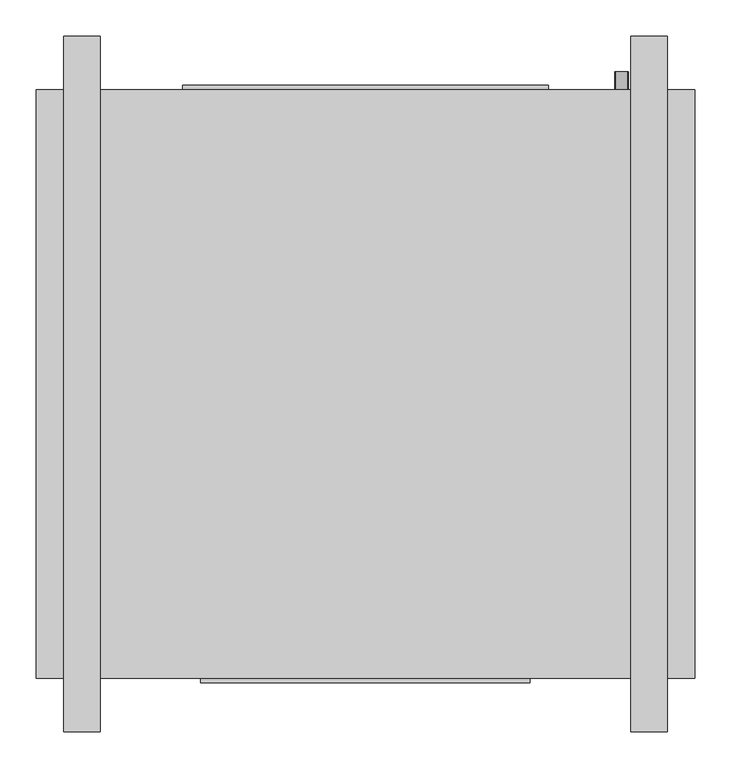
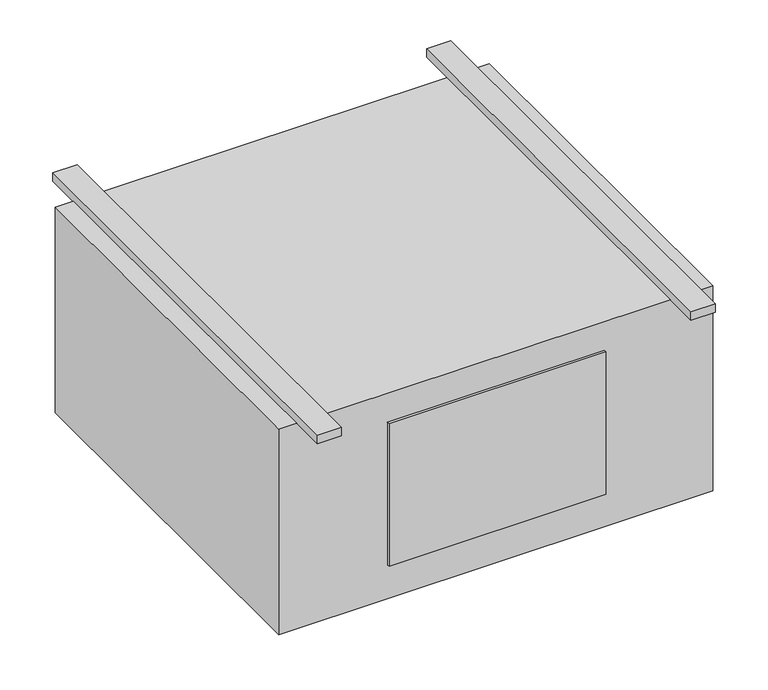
"""IFC4 building model written with IfcOpenShell, lengths in millimetres: proxy geometry, Exposed_High_Capacity_Horizontal_Cabinet_Fan_Coil_Unit_-_42DFA_-_CARRIER_-_2-Pipe_Cool-EHeat_RH_2022 : Size 08 - 277v/60Hz/1Ph - 6 Row 6.0kW."""

from ifc_helpers import new_model, si_unit, point, frame, frame_2d, origin, origin_with_axes, place, context, project, spatial, polyline, circle_curve, trimmed, segment, composite_curve, outline, extrude, source, transform, mapped, element, save


def mechanical_equipment_87600767(model_context):
    return source(origin(), model_context, "Body", "SweptSolid", [
        extrude(outline(composite_curve([segment(trimmed(circle_curve(frame_2d((-406.4, 508.0)), 9.525), [point((-406.4, 498.475))], [point((-406.4, 517.525))], False, "CARTESIAN"), True, "CONTINUOUS"), segment(trimmed(circle_curve(frame_2d((-406.4, 508.0)), 9.525), [point((-406.4, 517.525))], [point((-406.4, 498.475))], False, "CARTESIAN"), True, "CONTINUOUS")], self_intersect=False)), frame((0.0, 169.8625, 0.0), z_axis=(0.0, 1.0, 0.0), x_axis=(0.0, 0.0, 1.0)), (0.0, 0.0, 1.0), 25.4),
        extrude(outline(composite_curve([segment(trimmed(circle_curve(frame_2d((-330.2, 508.0)), 7.9375), [point((-330.2, 500.0625))], [point((-330.2, 515.9375))], False, "CARTESIAN"), True, "CONTINUOUS"), segment(trimmed(circle_curve(frame_2d((-330.2, 508.0)), 7.9375), [point((-330.2, 515.9375))], [point((-330.2, 500.0625))], False, "CARTESIAN"), True, "CONTINUOUS")], self_intersect=False)), frame((0.0, 169.8625, 0.0), z_axis=(0.0, 1.0, 0.0), x_axis=(0.0, 0.0, 1.0)), (0.0, 0.0, 1.0), 25.4),
        extrude(outline(composite_curve([segment(trimmed(circle_curve(frame_2d((-254.0, 508.0)), 7.9375), [point((-254.0, 500.0625))], [point((-254.0, 515.9375))], False, "CARTESIAN"), True, "CONTINUOUS"), segment(trimmed(circle_curve(frame_2d((-254.0, 508.0)), 7.9375), [point((-254.0, 515.9375))], [point((-254.0, 500.0625))], False, "CARTESIAN"), True, "CONTINUOUS")], self_intersect=False)), frame((0.0, 169.8625, 0.0), z_axis=(0.0, 1.0, 0.0), x_axis=(0.0, 0.0, 1.0)), (0.0, 0.0, 1.0), 25.4),
        extrude(outline(polyline([(609.6, 169.8625), (609.6, -646.1125), (-304.8, -646.1125), (-304.8, 169.8625), (609.6, 169.8625)])), frame((0.0, 0.0, -457.2), z_axis=(0.0, 0.0, 1.0), x_axis=(1.0, 0.0, 0.0)), (0.0, 0.0, 1.0), 457.2),
        extrude(outline(polyline([(-101.6, 176.2125), (406.4, 176.2125), (406.4, 169.8625), (-101.6, 169.8625), (-101.6, 176.2125)])), frame((0.0, 0.0, -381.0), z_axis=(0.0, 0.0, 1.0), x_axis=(1.0, 0.0, 0.0)), (0.0, 0.0, 1.0), 355.6),
        extrude(outline(polyline([(-215.9, 244.475), (-215.9, -720.725), (-266.7, -720.725), (-266.7, 244.475), (-215.9, 244.475)])), origin_with_axes(), (0.0, 0.0, 1.0), 19.05),
        extrude(outline(polyline([(571.5, 244.475), (571.5, -720.725), (520.7, -720.725), (520.7, 244.475), (571.5, 244.475)])), origin_with_axes(), (0.0, 0.0, 1.0), 19.05),
        extrude(outline(polyline([(381.0, -652.4625), (-76.2, -652.4625), (-76.2, -646.1125), (381.0, -646.1125), (381.0, -652.4625)])), frame((0.0, 0.0, -381.0), z_axis=(0.0, 0.0, 1.0), x_axis=(1.0, 0.0, 0.0)), (0.0, 0.0, 1.0), 317.5),
    ])


if __name__ == "__main__":
    model = new_model("IFC4")
    model_context = context("Model", 3, world=origin())
    ifc_project = project(units=[si_unit("LENGTHUNIT", "METRE", prefix="MILLI")], contexts=[model_context])
    site = spatial("IfcSite", under=ifc_project)
    building = spatial("IfcBuilding", under=site)
    placement = place(None, origin())
    mechanical_equipment_shape = mechanical_equipment_87600767(model_context)
    element("IfcBuildingElementProxy", 1, Name="Exposed_High_Capacity_Horizontal_Cabinet_Fan_Coil_Unit_-_42DFA_-_CARRIER_-_2-Pipe_Cool-EHeat_RH_2022 : Size 08 - 277v/60Hz/1Ph - 6 Row 6.0kW", ObjectType="Exposed_High_Capacity_Horizontal_Cabinet_Fan_Coil_Unit_-_42DFA_-_CARRIER_-_2-Pipe_Cool-EHeat_RH_2022 : Size 08 - 277v/60Hz/1Ph - 6 Row 6.0kW", at=placement, inside=building, context=model_context, shape_type="MappedRepresentation", body=[
        mapped(mechanical_equipment_shape, transform((0.0, 0.0, 0.0), x_axis=(1.0, 0.0, 0.0), y_axis=(0.0, 1.0, 0.0), z_axis=(0.0, 0.0, 1.0))),
    ])
    save(model, "model.ifc")
